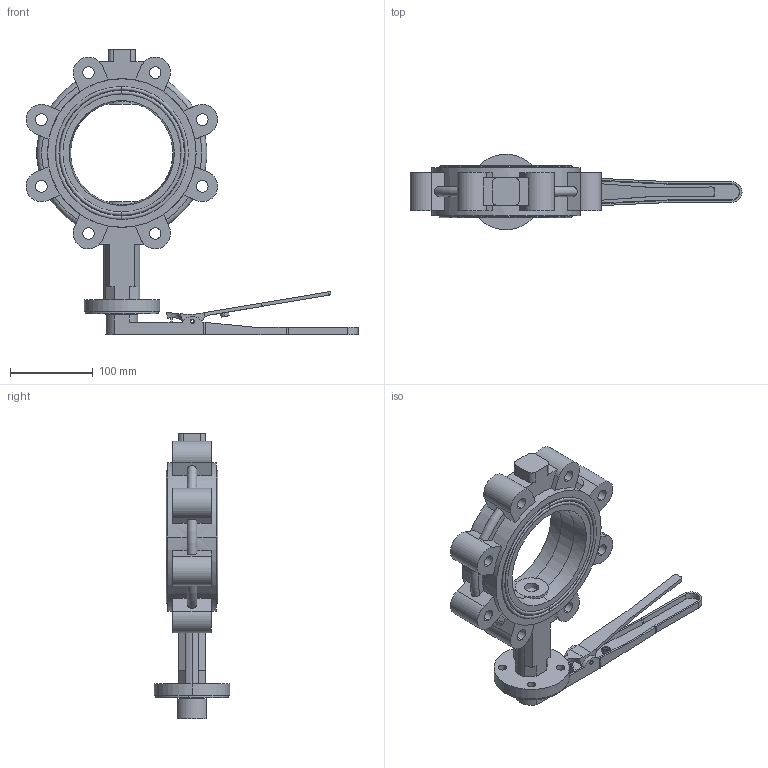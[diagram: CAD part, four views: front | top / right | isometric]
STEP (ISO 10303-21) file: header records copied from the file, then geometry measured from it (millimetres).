
FILE_DESCRIPTION (( 'STEP AP203' ), '1' );
FILE_NAME ('DN125凸耳手柄.STEP', '2026-06-16T07:51:04', ( '微软用户' ), ( '微软中国' ), 'SwSTEP 2.0', 'SolidWorks 2024', '' );
FILE_SCHEMA (( 'CONFIG_CONTROL_DESIGN' ));
Length unit declared in the file: millimetre
Products named in the file (8): 3寸齿盘; 玛钢手柄装配方14; 125凸耳，9公斤; 玛钢手柄弹簧本体方14; DN125凸耳手柄; spring pin slotted light duty1 gb_GB_PARALLEL_PINS_TYPE7 5X35; 玛钢手柄本体方14; 衬胶5寸
Assembly tree (7 placements, depth 3):
  DN125凸耳手柄
    125凸耳，9公斤
    衬胶5寸
    玛钢手柄装配方14
      玛钢手柄本体方14
      玛钢手柄弹簧本体方14
      spring pin slotted light duty1 gb_GB_PARALLEL_PINS_TYPE7 5X35
    3寸齿盘
Bounding box: 400.25 x 91 x 344 mm (x, y, z)
Volume: 1504552.3 mm3; surface area: 351609.7 mm2
Topology: 7 solids, 7 shells, 333 faces, 897 edges, 590 vertices
Faces by surface type: plane 164, cylinder 118, cone 27, torus 22, bspline 2
Entity records: 12381 total; most frequent: CARTESIAN_POINT 2855, DIRECTION 1885, ORIENTED_EDGE 1794, EDGE_CURVE 897, AXIS2_PLACEMENT_3D 700, VERTEX_POINT 590, LINE 485, VECTOR 485
